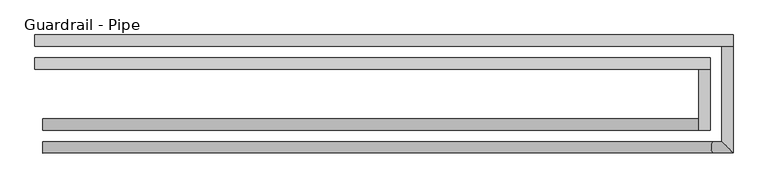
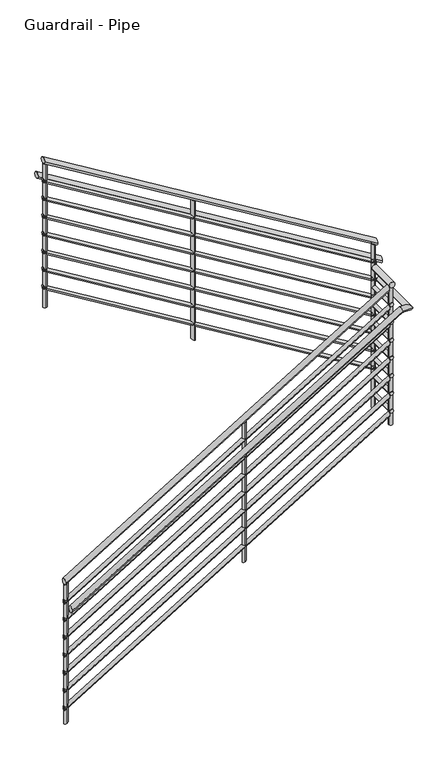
"""IFC4 building model written with IfcOpenShell, lengths in millimetres: railing geometry, Guardrail - Pipe."""

from ifc_helpers import new_model, si_unit, point, frame, frame_2d, origin, place, context, project, spatial, circle_curve, ellipse_curve, trimmed, segment, composite_curve, outline, extrude, source, transform, mapped, element, save
from ifc_brep_helpers import plane_surface, cylinder_surface, advanced_brep


def guardrail_pipe_1aecc964(model_context):
    return source(origin(), model_context, "Body", "SolidModel", [
        advanced_brep(
        [(-2909.3516552, 9300.527236, 1216.4326775), (-2909.3516552, 9338.627236, 1216.4326775), (-718.6016552, 9300.527236, 2549.387223), (-718.6016552, 9338.627236, 2549.387223)],
        [
            (0, 1, ellipse_curve(frame((-2909.3516552, 9319.577236, 1216.4326775), z_axis=(-1.0, 0.0, 0.0), x_axis=(0.0, 0.0, -1.0)), 22.2991406, 19.05)),
            (1, 0, ellipse_curve(frame((-2909.3516552, 9319.577236, 1216.4326775), z_axis=(-1.0, 0.0, 0.0), x_axis=(0.0, 0.0, -1.0)), 22.2991406, 19.05)),
            (2, 3, ellipse_curve(frame((-718.6016552, 9319.577236, 2549.387223), z_axis=(1.0, 0.0, 0.0), x_axis=(0.0, 0.0, -1.0)), 22.2991406, 19.05)),
            (3, 2, ellipse_curve(frame((-718.6016552, 9319.577236, 2549.387223), z_axis=(1.0, 0.0, 0.0), x_axis=(0.0, 0.0, -1.0)), 22.2991406, 19.05)),
            (0, 2),
            (3, 1),
        ],
        [
            plane_surface(frame((-2909.3516552, 9319.577236, 1238.7318182), z_axis=(-1.0, 0.0, 0.0), x_axis=(0.0, 1.0, 0.0))),
            plane_surface(frame((-718.6016552, 9319.577236, 2571.6863636), z_axis=(1.0, 0.0, 0.0), x_axis=(0.0, 1.0, 0.0))),
            cylinder_surface(frame((-2899.4496225, 9319.577236, 1222.4575363), z_axis=(-0.8542930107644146, 0.0, -0.519791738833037), x_axis=(0.0, 1.0, 0.0)), 19.05),
        ],
        [
            (0, [[1, 2]]),
            (1, [[3, 4]]),
            (2, [[-1, 5, -4, 6]]),
            (2, [[-2, -6, -3, -5]]),
        ],
    ),
        advanced_brep(
        [(-680.5016552, 9300.527236, 2577.75), (-718.6016552, 9300.527236, 2577.75), (-680.5016552, 9503.727236, 2577.75), (-718.6016552, 9503.727236, 2577.75)],
        [
            (0, 1, circle_curve(frame((-699.5516552, 9300.527236, 2577.75), z_axis=(0.0, -1.0, 0.0), x_axis=(-1.0, 0.0, 0.0)), 19.05)),
            (1, 0, circle_curve(frame((-699.5516552, 9300.527236, 2577.75), z_axis=(0.0, -1.0, 0.0), x_axis=(-1.0, 0.0, 0.0)), 19.05)),
            (2, 3, circle_curve(frame((-699.5516552, 9503.727236, 2577.75), z_axis=(0.0, 1.0, 0.0), x_axis=(-1.0, 0.0, 0.0)), 19.05)),
            (3, 2, circle_curve(frame((-699.5516552, 9503.727236, 2577.75), z_axis=(0.0, 1.0, 0.0), x_axis=(-1.0, 0.0, 0.0)), 19.05)),
            (0, 2),
            (3, 1),
        ],
        [
            plane_surface(frame((-699.5516552, 9300.527236, 2596.8), z_axis=(0.0, -1.0, 0.0), x_axis=(0.0, 0.0, 1.0))),
            plane_surface(frame((-699.5516552, 9503.727236, 2596.8), z_axis=(0.0, 1.0, 0.0), x_axis=(0.0, 0.0, 1.0))),
            cylinder_surface(frame((-699.5516552, 9300.527236, 2577.75), z_axis=(0.0, -1.0, 0.0), x_axis=(-1.0, 0.0, 0.0)), 19.05),
        ],
        [
            (0, [[1, 2]]),
            (1, [[3, 4]]),
            (2, [[-1, 5, -4, 6]]),
            (2, [[-2, -6, -3, -5]]),
        ],
    ),
        advanced_brep(
        [(-680.5016552, 9541.827236, 2746.4326775), (-680.5016552, 9503.727236, 2746.4326775), (-2934.7516552, 9541.827236, 4118.0235866), (-2934.7516552, 9503.727236, 4118.0235866)],
        [
            (0, 1, ellipse_curve(frame((-680.5016552, 9522.777236, 2746.4326775), z_axis=(1.0, 0.0, 0.0), x_axis=(0.0, 0.0, -1.0)), 22.2991406, 19.05)),
            (1, 0, ellipse_curve(frame((-680.5016552, 9522.777236, 2746.4326775), z_axis=(1.0, 0.0, 0.0), x_axis=(0.0, 0.0, -1.0)), 22.2991406, 19.05)),
            (2, 3, ellipse_curve(frame((-2934.7516552, 9522.777236, 4118.0235866), z_axis=(-1.0, 0.0, 0.0), x_axis=(0.0, 0.0, -1.0)), 22.2991406, 19.05)),
            (3, 2, ellipse_curve(frame((-2934.7516552, 9522.777236, 4118.0235866), z_axis=(-1.0, 0.0, 0.0), x_axis=(0.0, 0.0, -1.0)), 22.2991406, 19.05)),
            (0, 2),
            (3, 1),
        ],
        [
            plane_surface(frame((-680.5016552, 9522.777236, 2768.7318182), z_axis=(1.0, 0.0, 0.0), x_axis=(0.0, -1.0, 0.0))),
            plane_surface(frame((-2934.7516552, 9522.777236, 4140.3227273), z_axis=(-1.0, 0.0, 0.0), x_axis=(0.0, -1.0, 0.0))),
            cylinder_surface(frame((-690.4036878, 9522.777236, 2752.4575363), z_axis=(0.8542930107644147, 0.0, -0.5197917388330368), x_axis=(0.0, -1.0, 0.0)), 19.05),
        ],
        [
            (0, [[1, 2]]),
            (1, [[3, 4]]),
            (2, [[-1, 5, -4, 6]]),
            (2, [[-2, -6, -3, -5]]),
        ],
    ),
        advanced_brep(
        [(-2909.3516552, 9306.877236, 1071.4657244), (-2909.3516552, 9332.277236, 1071.4657244), (-712.2516552, 9306.877236, 2408.2839062), (-712.2516552, 9332.277236, 2408.2839062)],
        [
            (0, 1, ellipse_curve(frame((-2909.3516552, 9319.577236, 1071.4657244), z_axis=(-1.0, 0.0, 0.0), x_axis=(0.0, 0.0, -1.0)), 14.8660938, 12.7)),
            (1, 0, ellipse_curve(frame((-2909.3516552, 9319.577236, 1071.4657244), z_axis=(-1.0, 0.0, 0.0), x_axis=(0.0, 0.0, -1.0)), 14.8660938, 12.7)),
            (2, 3, ellipse_curve(frame((-712.2516552, 9319.577236, 2408.2839062), z_axis=(1.0, 0.0, 0.0), x_axis=(0.0, 0.0, -1.0)), 14.8660938, 12.7)),
            (3, 2, ellipse_curve(frame((-712.2516552, 9319.577236, 2408.2839062), z_axis=(1.0, 0.0, 0.0), x_axis=(0.0, 0.0, -1.0)), 14.8660938, 12.7)),
            (0, 2),
            (3, 1),
        ],
        [
            plane_surface(frame((-2909.3516552, 9319.577236, 1086.3318182), z_axis=(-1.0, 0.0, 0.0), x_axis=(0.0, 1.0, 0.0))),
            plane_surface(frame((-712.2516552, 9319.577236, 2423.15), z_axis=(1.0, 0.0, 0.0), x_axis=(0.0, 1.0, 0.0))),
            cylinder_surface(frame((-2902.7503001, 9319.577236, 1075.4822969), z_axis=(-0.8542930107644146, 0.0, -0.5197917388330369), x_axis=(0.0, 1.0, 0.0)), 12.7),
        ],
        [
            (0, [[1, 2]]),
            (1, [[3, 4]]),
            (2, [[-1, 5, -4, 6]]),
            (2, [[-2, -6, -3, -5]]),
        ],
    ),
        advanced_brep(
        [(-686.8516552, 9306.877236, 2431.7), (-712.2516552, 9306.877236, 2431.7), (-686.8516552, 9510.077236, 2431.7), (-712.2516552, 9510.077236, 2431.7)],
        [
            (0, 1, circle_curve(frame((-699.5516552, 9306.877236, 2431.7), z_axis=(0.0, -1.0, 0.0), x_axis=(-1.0, 0.0, 0.0)), 12.7)),
            (1, 0, circle_curve(frame((-699.5516552, 9306.877236, 2431.7), z_axis=(0.0, -1.0, 0.0), x_axis=(-1.0, 0.0, 0.0)), 12.7)),
            (2, 3, circle_curve(frame((-699.5516552, 9510.077236, 2431.7), z_axis=(0.0, 1.0, 0.0), x_axis=(-1.0, 0.0, 0.0)), 12.7)),
            (3, 2, circle_curve(frame((-699.5516552, 9510.077236, 2431.7), z_axis=(0.0, 1.0, 0.0), x_axis=(-1.0, 0.0, 0.0)), 12.7)),
            (0, 2),
            (3, 1),
        ],
        [
            plane_surface(frame((-699.5516552, 9306.877236, 2444.4), z_axis=(0.0, -1.0, 0.0), x_axis=(0.0, 0.0, 1.0))),
            plane_surface(frame((-699.5516552, 9510.077236, 2444.4), z_axis=(0.0, 1.0, 0.0), x_axis=(0.0, 0.0, 1.0))),
            cylinder_surface(frame((-699.5516552, 9306.877236, 2431.7), z_axis=(0.0, -1.0, 0.0), x_axis=(-1.0, 0.0, 0.0)), 12.7),
        ],
        [
            (0, [[1, 2]]),
            (1, [[3, 4]]),
            (2, [[-1, 5, -4, 6]]),
            (2, [[-2, -6, -3, -5]]),
        ],
    ),
        advanced_brep(
        [(-686.8516552, 9535.477236, 2605.3293608), (-686.8516552, 9510.077236, 2605.3293608), (-2934.7516552, 9535.477236, 3973.0566335), (-2934.7516552, 9510.077236, 3973.0566335)],
        [
            (0, 1, ellipse_curve(frame((-686.8516552, 9522.777236, 2605.3293608), z_axis=(1.0, 0.0, 0.0), x_axis=(0.0, 0.0, -1.0)), 14.8660938, 12.7)),
            (1, 0, ellipse_curve(frame((-686.8516552, 9522.777236, 2605.3293608), z_axis=(1.0, 0.0, 0.0), x_axis=(0.0, 0.0, -1.0)), 14.8660938, 12.7)),
            (2, 3, ellipse_curve(frame((-2934.7516552, 9522.777236, 3973.0566335), z_axis=(-1.0, 0.0, 0.0), x_axis=(0.0, 0.0, -1.0)), 14.8660938, 12.7)),
            (3, 2, ellipse_curve(frame((-2934.7516552, 9522.777236, 3973.0566335), z_axis=(-1.0, 0.0, 0.0), x_axis=(0.0, 0.0, -1.0)), 14.8660938, 12.7)),
            (0, 2),
            (3, 1),
        ],
        [
            plane_surface(frame((-686.8516552, 9522.777236, 2620.1954545), z_axis=(1.0, 0.0, 0.0), x_axis=(0.0, -1.0, 0.0))),
            plane_surface(frame((-2934.7516552, 9522.777236, 3987.9227273), z_axis=(-1.0, 0.0, 0.0), x_axis=(0.0, -1.0, 0.0))),
            cylinder_surface(frame((-693.4530103, 9522.777236, 2609.3459333), z_axis=(0.8542930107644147, 0.0, -0.5197917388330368), x_axis=(0.0, -1.0, 0.0)), 12.7),
        ],
        [
            (0, [[1, 2]]),
            (1, [[3, 4]]),
            (2, [[-1, 5, -4, 6]]),
            (2, [[-2, -6, -3, -5]]),
        ],
    ),
        advanced_brep(
        [(-2909.3516552, 9224.327236, 1064.0326775), (-2909.3516552, 9262.427236, 1064.0326775), (-671.986597, 9224.327236, 2425.35), (-671.986597, 9262.427236, 2425.35), (-604.3016552, 9224.327236, 2425.35), (-642.4016552, 9262.427236, 2425.35), (-604.3016552, 9579.927236, 2425.35), (-642.4016552, 9579.927236, 2425.35)],
        [
            (0, 1, ellipse_curve(frame((-2909.3516552, 9243.377236, 1064.0326775), z_axis=(-1.0, 0.0, 0.0), x_axis=(0.0, 0.0, -1.0)), 22.2991406, 19.05)),
            (1, 0, ellipse_curve(frame((-2909.3516552, 9243.377236, 1064.0326775), z_axis=(-1.0, 0.0, 0.0), x_axis=(0.0, 0.0, -1.0)), 22.2991406, 19.05)),
            (0, 2),
            (2, 3, ellipse_curve(frame((-671.986597, 9243.377236, 2425.35), z_axis=(-0.9628844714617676, 0.0, -0.2699138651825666), x_axis=(0.26991386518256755, 0.0, -0.9628844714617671)), 19.7843049, 19.05)),
            (3, 1),
            (3, 2, ellipse_curve(frame((-671.986597, 9243.377236, 2425.35), z_axis=(-0.9628844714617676, 0.0, -0.2699138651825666), x_axis=(0.26991386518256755, 0.0, -0.9628844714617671)), 19.7843049, 19.05)),
            (2, 4),
            (4, 5, ellipse_curve(frame((-623.3516552, 9243.377236, 2425.35), z_axis=(-0.7071067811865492, -0.7071067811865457, 0.0), x_axis=(-0.7071067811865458, 0.7071067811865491, 0.0)), 26.9407684, 19.05)),
            (5, 3),
            (5, 4, ellipse_curve(frame((-623.3516552, 9243.377236, 2425.35), z_axis=(-0.7071067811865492, -0.7071067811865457, 0.0), x_axis=(-0.7071067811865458, 0.7071067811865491, 0.0)), 26.9407684, 19.05)),
            (6, 7, circle_curve(frame((-623.3516552, 9579.927236, 2425.35), z_axis=(0.0, 1.0, 0.0), x_axis=(-1.0, 0.0, 0.0)), 19.05)),
            (7, 6, circle_curve(frame((-623.3516552, 9579.927236, 2425.35), z_axis=(0.0, 1.0, 0.0), x_axis=(-1.0, 0.0, 0.0)), 19.05)),
            (4, 6),
            (7, 5),
        ],
        [
            plane_surface(frame((-2909.3516552, 9243.377236, 1086.3318182), z_axis=(-1.0, 0.0, 0.0), x_axis=(0.0, 1.0, 0.0))),
            cylinder_surface(frame((-2899.4496225, 9243.377236, 1070.0575363), z_axis=(-0.8542930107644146, 0.0, -0.5197917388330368), x_axis=(0.0, 1.0, 0.0)), 19.05),
            cylinder_surface(frame((-677.3266552, 9243.377236, 2425.35), z_axis=(-1.0, 0.0, 0.0), x_axis=(0.0, 1.0, 0.0)), 19.05),
            plane_surface(frame((-623.3516552, 9579.927236, 2444.4), z_axis=(0.0, 1.0, 0.0), x_axis=(0.0, 0.0, 1.0))),
            cylinder_surface(frame((-623.3516552, 9243.377236, 2425.35), z_axis=(0.0, -1.0, 0.0), x_axis=(-1.0, 0.0, 0.0)), 19.05),
        ],
        [
            (0, [[1, 2]]),
            (1, [[-1, 3, 4, 5]]),
            (1, [[-2, -5, 6, -3]]),
            (2, [[-4, 7, 8, 9]]),
            (2, [[-6, -9, 10, -7]]),
            (3, [[11, 12]]),
            (4, [[-8, 13, -12, 14]]),
            (4, [[-10, -14, -11, -13]]),
        ],
    ),
        advanced_brep(
        [(-604.3016552, 9618.027236, 2547.6690412), (-604.3016552, 9579.927236, 2547.6690412), (-2934.7516552, 9618.027236, 3965.6235866), (-2934.7516552, 9579.927236, 3965.6235866)],
        [
            (0, 1, ellipse_curve(frame((-604.3016552, 9598.977236, 2547.6690412), z_axis=(1.0, 0.0, 0.0), x_axis=(0.0, 0.0, -1.0)), 22.2991406, 19.05)),
            (1, 0, ellipse_curve(frame((-604.3016552, 9598.977236, 2547.6690412), z_axis=(1.0, 0.0, 0.0), x_axis=(0.0, 0.0, -1.0)), 22.2991406, 19.05)),
            (2, 3, ellipse_curve(frame((-2934.7516552, 9598.977236, 3965.6235866), z_axis=(-1.0, 0.0, 0.0), x_axis=(0.0, 0.0, -1.0)), 22.2991406, 19.05)),
            (3, 2, ellipse_curve(frame((-2934.7516552, 9598.977236, 3965.6235866), z_axis=(-1.0, 0.0, 0.0), x_axis=(0.0, 0.0, -1.0)), 22.2991406, 19.05)),
            (0, 2),
            (3, 1),
        ],
        [
            plane_surface(frame((-604.3016552, 9598.977236, 2569.9681818), z_axis=(1.0, 0.0, 0.0), x_axis=(0.0, -1.0, 0.0))),
            plane_surface(frame((-2934.7516552, 9598.977236, 3987.9227273), z_axis=(-1.0, 0.0, 0.0), x_axis=(0.0, -1.0, 0.0))),
            cylinder_surface(frame((-614.2036878, 9598.977236, 2553.6939), z_axis=(0.8542930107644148, 0.0, -0.5197917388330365), x_axis=(0.0, -1.0, 0.0)), 19.05),
        ],
        [
            (0, [[1, 2]]),
            (1, [[3, 4]]),
            (2, [[-1, 5, -4, 6]]),
            (2, [[-2, -6, -3, -5]]),
        ],
    ),
        advanced_brep(
        [(-2909.3516552, 9306.877236, 944.4657244), (-2909.3516552, 9332.277236, 944.4657244), (-712.2516552, 9306.877236, 2281.2839062), (-712.2516552, 9332.277236, 2281.2839062)],
        [
            (0, 1, ellipse_curve(frame((-2909.3516552, 9319.577236, 944.4657244), z_axis=(-1.0, 0.0, 0.0), x_axis=(0.0, 0.0, -1.0)), 14.8660938, 12.7)),
            (1, 0, ellipse_curve(frame((-2909.3516552, 9319.577236, 944.4657244), z_axis=(-1.0, 0.0, 0.0), x_axis=(0.0, 0.0, -1.0)), 14.8660938, 12.7)),
            (2, 3, ellipse_curve(frame((-712.2516552, 9319.577236, 2281.2839062), z_axis=(1.0, 0.0, 0.0), x_axis=(0.0, 0.0, -1.0)), 14.8660938, 12.7)),
            (3, 2, ellipse_curve(frame((-712.2516552, 9319.577236, 2281.2839062), z_axis=(1.0, 0.0, 0.0), x_axis=(0.0, 0.0, -1.0)), 14.8660938, 12.7)),
            (0, 2),
            (3, 1),
        ],
        [
            plane_surface(frame((-2909.3516552, 9319.577236, 959.3318182), z_axis=(-1.0, 0.0, 0.0), x_axis=(0.0, 1.0, 0.0))),
            plane_surface(frame((-712.2516552, 9319.577236, 2296.15), z_axis=(1.0, 0.0, 0.0), x_axis=(0.0, 1.0, 0.0))),
            cylinder_surface(frame((-2902.7503001, 9319.577236, 948.4822969), z_axis=(-0.8542930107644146, 0.0, -0.5197917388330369), x_axis=(0.0, 1.0, 0.0)), 12.7),
        ],
        [
            (0, [[1, 2]]),
            (1, [[3, 4]]),
            (2, [[-1, 5, -4, 6]]),
            (2, [[-2, -6, -3, -5]]),
        ],
    ),
        advanced_brep(
        [(-686.8516552, 9306.877236, 2304.7), (-712.2516552, 9306.877236, 2304.7), (-686.8516552, 9510.077236, 2304.7), (-712.2516552, 9510.077236, 2304.7)],
        [
            (0, 1, circle_curve(frame((-699.5516552, 9306.877236, 2304.7), z_axis=(0.0, -1.0, 0.0), x_axis=(-1.0, 0.0, 0.0)), 12.7)),
            (1, 0, circle_curve(frame((-699.5516552, 9306.877236, 2304.7), z_axis=(0.0, -1.0, 0.0), x_axis=(-1.0, 0.0, 0.0)), 12.7)),
            (2, 3, circle_curve(frame((-699.5516552, 9510.077236, 2304.7), z_axis=(0.0, 1.0, 0.0), x_axis=(-1.0, 0.0, 0.0)), 12.7)),
            (3, 2, circle_curve(frame((-699.5516552, 9510.077236, 2304.7), z_axis=(0.0, 1.0, 0.0), x_axis=(-1.0, 0.0, 0.0)), 12.7)),
            (0, 2),
            (3, 1),
        ],
        [
            plane_surface(frame((-699.5516552, 9306.877236, 2317.4), z_axis=(0.0, -1.0, 0.0), x_axis=(0.0, 0.0, 1.0))),
            plane_surface(frame((-699.5516552, 9510.077236, 2317.4), z_axis=(0.0, 1.0, 0.0), x_axis=(0.0, 0.0, 1.0))),
            cylinder_surface(frame((-699.5516552, 9306.877236, 2304.7), z_axis=(0.0, -1.0, 0.0), x_axis=(-1.0, 0.0, 0.0)), 12.7),
        ],
        [
            (0, [[1, 2]]),
            (1, [[3, 4]]),
            (2, [[-1, 5, -4, 6]]),
            (2, [[-2, -6, -3, -5]]),
        ],
    ),
        advanced_brep(
        [(-686.8516552, 9535.477236, 2478.3293608), (-686.8516552, 9510.077236, 2478.3293608), (-2934.7516552, 9535.477236, 3846.0566335), (-2934.7516552, 9510.077236, 3846.0566335)],
        [
            (0, 1, ellipse_curve(frame((-686.8516552, 9522.777236, 2478.3293608), z_axis=(1.0, 0.0, 0.0), x_axis=(0.0, 0.0, -1.0)), 14.8660938, 12.7)),
            (1, 0, ellipse_curve(frame((-686.8516552, 9522.777236, 2478.3293608), z_axis=(1.0, 0.0, 0.0), x_axis=(0.0, 0.0, -1.0)), 14.8660938, 12.7)),
            (2, 3, ellipse_curve(frame((-2934.7516552, 9522.777236, 3846.0566335), z_axis=(-1.0, 0.0, 0.0), x_axis=(0.0, 0.0, -1.0)), 14.8660938, 12.7)),
            (3, 2, ellipse_curve(frame((-2934.7516552, 9522.777236, 3846.0566335), z_axis=(-1.0, 0.0, 0.0), x_axis=(0.0, 0.0, -1.0)), 14.8660938, 12.7)),
            (0, 2),
            (3, 1),
        ],
        [
            plane_surface(frame((-686.8516552, 9522.777236, 2493.1954545), z_axis=(1.0, 0.0, 0.0), x_axis=(0.0, -1.0, 0.0))),
            plane_surface(frame((-2934.7516552, 9522.777236, 3860.9227273), z_axis=(-1.0, 0.0, 0.0), x_axis=(0.0, -1.0, 0.0))),
            cylinder_surface(frame((-693.4530103, 9522.777236, 2482.3459333), z_axis=(0.8542930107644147, 0.0, -0.5197917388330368), x_axis=(0.0, -1.0, 0.0)), 12.7),
        ],
        [
            (0, [[1, 2]]),
            (1, [[3, 4]]),
            (2, [[-1, 5, -4, 6]]),
            (2, [[-2, -6, -3, -5]]),
        ],
    ),
        advanced_brep(
        [(-2909.3516552, 9306.877236, 817.4657244), (-2909.3516552, 9332.277236, 817.4657244), (-712.2516552, 9306.877236, 2154.2839062), (-712.2516552, 9332.277236, 2154.2839062)],
        [
            (0, 1, ellipse_curve(frame((-2909.3516552, 9319.577236, 817.4657244), z_axis=(-1.0, 0.0, 0.0), x_axis=(0.0, 0.0, -1.0)), 14.8660938, 12.7)),
            (1, 0, ellipse_curve(frame((-2909.3516552, 9319.577236, 817.4657244), z_axis=(-1.0, 0.0, 0.0), x_axis=(0.0, 0.0, -1.0)), 14.8660938, 12.7)),
            (2, 3, ellipse_curve(frame((-712.2516552, 9319.577236, 2154.2839062), z_axis=(1.0, 0.0, 0.0), x_axis=(0.0, 0.0, -1.0)), 14.8660938, 12.7)),
            (3, 2, ellipse_curve(frame((-712.2516552, 9319.577236, 2154.2839062), z_axis=(1.0, 0.0, 0.0), x_axis=(0.0, 0.0, -1.0)), 14.8660938, 12.7)),
            (0, 2),
            (3, 1),
        ],
        [
            plane_surface(frame((-2909.3516552, 9319.577236, 832.3318182), z_axis=(-1.0, 0.0, 0.0), x_axis=(0.0, 1.0, 0.0))),
            plane_surface(frame((-712.2516552, 9319.577236, 2169.15), z_axis=(1.0, 0.0, 0.0), x_axis=(0.0, 1.0, 0.0))),
            cylinder_surface(frame((-2902.7503001, 9319.577236, 821.4822969), z_axis=(-0.8542930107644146, 0.0, -0.519791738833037), x_axis=(0.0, 1.0, 0.0)), 12.7),
        ],
        [
            (0, [[1, 2]]),
            (1, [[3, 4]]),
            (2, [[-1, 5, -4, 6]]),
            (2, [[-2, -6, -3, -5]]),
        ],
    ),
        advanced_brep(
        [(-686.8516552, 9306.877236, 2177.7), (-712.2516552, 9306.877236, 2177.7), (-686.8516552, 9510.077236, 2177.7), (-712.2516552, 9510.077236, 2177.7)],
        [
            (0, 1, circle_curve(frame((-699.5516552, 9306.877236, 2177.7), z_axis=(0.0, -1.0, 0.0), x_axis=(-1.0, 0.0, 0.0)), 12.7)),
            (1, 0, circle_curve(frame((-699.5516552, 9306.877236, 2177.7), z_axis=(0.0, -1.0, 0.0), x_axis=(-1.0, 0.0, 0.0)), 12.7)),
            (2, 3, circle_curve(frame((-699.5516552, 9510.077236, 2177.7), z_axis=(0.0, 1.0, 0.0), x_axis=(-1.0, 0.0, 0.0)), 12.7)),
            (3, 2, circle_curve(frame((-699.5516552, 9510.077236, 2177.7), z_axis=(0.0, 1.0, 0.0), x_axis=(-1.0, 0.0, 0.0)), 12.7)),
            (0, 2),
            (3, 1),
        ],
        [
            plane_surface(frame((-699.5516552, 9306.877236, 2190.4), z_axis=(0.0, -1.0, 0.0), x_axis=(0.0, 0.0, 1.0))),
            plane_surface(frame((-699.5516552, 9510.077236, 2190.4), z_axis=(0.0, 1.0, 0.0), x_axis=(0.0, 0.0, 1.0))),
            cylinder_surface(frame((-699.5516552, 9306.877236, 2177.7), z_axis=(0.0, -1.0, 0.0), x_axis=(-1.0, 0.0, 0.0)), 12.7),
        ],
        [
            (0, [[1, 2]]),
            (1, [[3, 4]]),
            (2, [[-1, 5, -4, 6]]),
            (2, [[-2, -6, -3, -5]]),
        ],
    ),
        advanced_brep(
        [(-686.8516552, 9535.477236, 2351.3293608), (-686.8516552, 9510.077236, 2351.3293608), (-2934.7516552, 9535.477236, 3719.0566335), (-2934.7516552, 9510.077236, 3719.0566335)],
        [
            (0, 1, ellipse_curve(frame((-686.8516552, 9522.777236, 2351.3293608), z_axis=(1.0, 0.0, 0.0), x_axis=(0.0, 0.0, -1.0)), 14.8660938, 12.7)),
            (1, 0, ellipse_curve(frame((-686.8516552, 9522.777236, 2351.3293608), z_axis=(1.0, 0.0, 0.0), x_axis=(0.0, 0.0, -1.0)), 14.8660938, 12.7)),
            (2, 3, ellipse_curve(frame((-2934.7516552, 9522.777236, 3719.0566335), z_axis=(-1.0, 0.0, 0.0), x_axis=(0.0, 0.0, -1.0)), 14.8660938, 12.7)),
            (3, 2, ellipse_curve(frame((-2934.7516552, 9522.777236, 3719.0566335), z_axis=(-1.0, 0.0, 0.0), x_axis=(0.0, 0.0, -1.0)), 14.8660938, 12.7)),
            (0, 2),
            (3, 1),
        ],
        [
            plane_surface(frame((-686.8516552, 9522.777236, 2366.1954545), z_axis=(1.0, 0.0, 0.0), x_axis=(0.0, -1.0, 0.0))),
            plane_surface(frame((-2934.7516552, 9522.777236, 3733.9227273), z_axis=(-1.0, 0.0, 0.0), x_axis=(0.0, -1.0, 0.0))),
            cylinder_surface(frame((-693.4530103, 9522.777236, 2355.3459333), z_axis=(0.8542930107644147, 0.0, -0.5197917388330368), x_axis=(0.0, -1.0, 0.0)), 12.7),
        ],
        [
            (0, [[1, 2]]),
            (1, [[3, 4]]),
            (2, [[-1, 5, -4, 6]]),
            (2, [[-2, -6, -3, -5]]),
        ],
    ),
        advanced_brep(
        [(-2909.3516552, 9306.877236, 690.4657244), (-2909.3516552, 9332.277236, 690.4657244), (-712.2516552, 9306.877236, 2027.2839062), (-712.2516552, 9332.277236, 2027.2839062)],
        [
            (0, 1, ellipse_curve(frame((-2909.3516552, 9319.577236, 690.4657244), z_axis=(-1.0, 0.0, 0.0), x_axis=(0.0, 0.0, -1.0)), 14.8660938, 12.7)),
            (1, 0, ellipse_curve(frame((-2909.3516552, 9319.577236, 690.4657244), z_axis=(-1.0, 0.0, 0.0), x_axis=(0.0, 0.0, -1.0)), 14.8660938, 12.7)),
            (2, 3, ellipse_curve(frame((-712.2516552, 9319.577236, 2027.2839062), z_axis=(1.0, 0.0, 0.0), x_axis=(0.0, 0.0, -1.0)), 14.8660938, 12.7)),
            (3, 2, ellipse_curve(frame((-712.2516552, 9319.577236, 2027.2839062), z_axis=(1.0, 0.0, 0.0), x_axis=(0.0, 0.0, -1.0)), 14.8660938, 12.7)),
            (0, 2),
            (3, 1),
        ],
        [
            plane_surface(frame((-2909.3516552, 9319.577236, 705.3318182), z_axis=(-1.0, 0.0, 0.0), x_axis=(0.0, 1.0, 0.0))),
            plane_surface(frame((-712.2516552, 9319.577236, 2042.15), z_axis=(1.0, 0.0, 0.0), x_axis=(0.0, 1.0, 0.0))),
            cylinder_surface(frame((-2902.7503001, 9319.577236, 694.4822969), z_axis=(-0.8542930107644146, 0.0, -0.5197917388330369), x_axis=(0.0, 1.0, 0.0)), 12.7),
        ],
        [
            (0, [[1, 2]]),
            (1, [[3, 4]]),
            (2, [[-1, 5, -4, 6]]),
            (2, [[-2, -6, -3, -5]]),
        ],
    ),
        advanced_brep(
        [(-686.8516552, 9306.877236, 2050.7), (-712.2516552, 9306.877236, 2050.7), (-686.8516552, 9510.077236, 2050.7), (-712.2516552, 9510.077236, 2050.7)],
        [
            (0, 1, circle_curve(frame((-699.5516552, 9306.877236, 2050.7), z_axis=(0.0, -1.0, 0.0), x_axis=(-1.0, 0.0, 0.0)), 12.7)),
            (1, 0, circle_curve(frame((-699.5516552, 9306.877236, 2050.7), z_axis=(0.0, -1.0, 0.0), x_axis=(-1.0, 0.0, 0.0)), 12.7)),
            (2, 3, circle_curve(frame((-699.5516552, 9510.077236, 2050.7), z_axis=(0.0, 1.0, 0.0), x_axis=(-1.0, 0.0, 0.0)), 12.7)),
            (3, 2, circle_curve(frame((-699.5516552, 9510.077236, 2050.7), z_axis=(0.0, 1.0, 0.0), x_axis=(-1.0, 0.0, 0.0)), 12.7)),
            (0, 2),
            (3, 1),
        ],
        [
            plane_surface(frame((-699.5516552, 9306.877236, 2063.4), z_axis=(0.0, -1.0, 0.0), x_axis=(0.0, 0.0, 1.0))),
            plane_surface(frame((-699.5516552, 9510.077236, 2063.4), z_axis=(0.0, 1.0, 0.0), x_axis=(0.0, 0.0, 1.0))),
            cylinder_surface(frame((-699.5516552, 9306.877236, 2050.7), z_axis=(0.0, -1.0, 0.0), x_axis=(-1.0, 0.0, 0.0)), 12.7),
        ],
        [
            (0, [[1, 2]]),
            (1, [[3, 4]]),
            (2, [[-1, 5, -4, 6]]),
            (2, [[-2, -6, -3, -5]]),
        ],
    ),
        advanced_brep(
        [(-686.8516552, 9535.477236, 2224.3293608), (-686.8516552, 9510.077236, 2224.3293608), (-2934.7516552, 9535.477236, 3592.0566335), (-2934.7516552, 9510.077236, 3592.0566335)],
        [
            (0, 1, ellipse_curve(frame((-686.8516552, 9522.777236, 2224.3293608), z_axis=(1.0, 0.0, 0.0), x_axis=(0.0, 0.0, -1.0)), 14.8660938, 12.7)),
            (1, 0, ellipse_curve(frame((-686.8516552, 9522.777236, 2224.3293608), z_axis=(1.0, 0.0, 0.0), x_axis=(0.0, 0.0, -1.0)), 14.8660938, 12.7)),
            (2, 3, ellipse_curve(frame((-2934.7516552, 9522.777236, 3592.0566335), z_axis=(-1.0, 0.0, 0.0), x_axis=(0.0, 0.0, -1.0)), 14.8660938, 12.7)),
            (3, 2, ellipse_curve(frame((-2934.7516552, 9522.777236, 3592.0566335), z_axis=(-1.0, 0.0, 0.0), x_axis=(0.0, 0.0, -1.0)), 14.8660938, 12.7)),
            (0, 2),
            (3, 1),
        ],
        [
            plane_surface(frame((-686.8516552, 9522.777236, 2239.1954545), z_axis=(1.0, 0.0, 0.0), x_axis=(0.0, -1.0, 0.0))),
            plane_surface(frame((-2934.7516552, 9522.777236, 3606.9227273), z_axis=(-1.0, 0.0, 0.0), x_axis=(0.0, -1.0, 0.0))),
            cylinder_surface(frame((-693.4530103, 9522.777236, 2228.3459333), z_axis=(0.8542930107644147, 0.0, -0.5197917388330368), x_axis=(0.0, -1.0, 0.0)), 12.7),
        ],
        [
            (0, [[1, 2]]),
            (1, [[3, 4]]),
            (2, [[-1, 5, -4, 6]]),
            (2, [[-2, -6, -3, -5]]),
        ],
    ),
        advanced_brep(
        [(-2909.3516552, 9306.877236, 563.4657244), (-2909.3516552, 9332.277236, 563.4657244), (-712.2516552, 9306.877236, 1900.2839062), (-712.2516552, 9332.277236, 1900.2839062)],
        [
            (0, 1, ellipse_curve(frame((-2909.3516552, 9319.577236, 563.4657244), z_axis=(-1.0, 0.0, 0.0), x_axis=(0.0, 0.0, -1.0)), 14.8660938, 12.7)),
            (1, 0, ellipse_curve(frame((-2909.3516552, 9319.577236, 563.4657244), z_axis=(-1.0, 0.0, 0.0), x_axis=(0.0, 0.0, -1.0)), 14.8660938, 12.7)),
            (2, 3, ellipse_curve(frame((-712.2516552, 9319.577236, 1900.2839062), z_axis=(1.0, 0.0, 0.0), x_axis=(0.0, 0.0, -1.0)), 14.8660938, 12.7)),
            (3, 2, ellipse_curve(frame((-712.2516552, 9319.577236, 1900.2839062), z_axis=(1.0, 0.0, 0.0), x_axis=(0.0, 0.0, -1.0)), 14.8660938, 12.7)),
            (0, 2),
            (3, 1),
        ],
        [
            plane_surface(frame((-2909.3516552, 9319.577236, 578.3318182), z_axis=(-1.0, 0.0, 0.0), x_axis=(0.0, 1.0, 0.0))),
            plane_surface(frame((-712.2516552, 9319.577236, 1915.15), z_axis=(1.0, 0.0, 0.0), x_axis=(0.0, 1.0, 0.0))),
            cylinder_surface(frame((-2902.7503001, 9319.577236, 567.4822969), z_axis=(-0.8542930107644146, 0.0, -0.5197917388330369), x_axis=(0.0, 1.0, 0.0)), 12.7),
        ],
        [
            (0, [[1, 2]]),
            (1, [[3, 4]]),
            (2, [[-1, 5, -4, 6]]),
            (2, [[-2, -6, -3, -5]]),
        ],
    ),
        advanced_brep(
        [(-686.8516552, 9306.877236, 1923.7), (-712.2516552, 9306.877236, 1923.7), (-686.8516552, 9510.077236, 1923.7), (-712.2516552, 9510.077236, 1923.7)],
        [
            (0, 1, circle_curve(frame((-699.5516552, 9306.877236, 1923.7), z_axis=(0.0, -1.0, 0.0), x_axis=(-1.0, 0.0, 0.0)), 12.7)),
            (1, 0, circle_curve(frame((-699.5516552, 9306.877236, 1923.7), z_axis=(0.0, -1.0, 0.0), x_axis=(-1.0, 0.0, 0.0)), 12.7)),
            (2, 3, circle_curve(frame((-699.5516552, 9510.077236, 1923.7), z_axis=(0.0, 1.0, 0.0), x_axis=(-1.0, 0.0, 0.0)), 12.7)),
            (3, 2, circle_curve(frame((-699.5516552, 9510.077236, 1923.7), z_axis=(0.0, 1.0, 0.0), x_axis=(-1.0, 0.0, 0.0)), 12.7)),
            (0, 2),
            (3, 1),
        ],
        [
            plane_surface(frame((-699.5516552, 9306.877236, 1936.4), z_axis=(0.0, -1.0, 0.0), x_axis=(0.0, 0.0, 1.0))),
            plane_surface(frame((-699.5516552, 9510.077236, 1936.4), z_axis=(0.0, 1.0, 0.0), x_axis=(0.0, 0.0, 1.0))),
            cylinder_surface(frame((-699.5516552, 9306.877236, 1923.7), z_axis=(0.0, -1.0, 0.0), x_axis=(-1.0, 0.0, 0.0)), 12.7),
        ],
        [
            (0, [[1, 2]]),
            (1, [[3, 4]]),
            (2, [[-1, 5, -4, 6]]),
            (2, [[-2, -6, -3, -5]]),
        ],
    ),
        advanced_brep(
        [(-686.8516552, 9535.477236, 2097.3293608), (-686.8516552, 9510.077236, 2097.3293608), (-2934.7516552, 9535.477236, 3465.0566335), (-2934.7516552, 9510.077236, 3465.0566335)],
        [
            (0, 1, ellipse_curve(frame((-686.8516552, 9522.777236, 2097.3293608), z_axis=(1.0, 0.0, 0.0), x_axis=(0.0, 0.0, -1.0)), 14.8660938, 12.7)),
            (1, 0, ellipse_curve(frame((-686.8516552, 9522.777236, 2097.3293608), z_axis=(1.0, 0.0, 0.0), x_axis=(0.0, 0.0, -1.0)), 14.8660938, 12.7)),
            (2, 3, ellipse_curve(frame((-2934.7516552, 9522.777236, 3465.0566335), z_axis=(-1.0, 0.0, 0.0), x_axis=(0.0, 0.0, -1.0)), 14.8660938, 12.7)),
            (3, 2, ellipse_curve(frame((-2934.7516552, 9522.777236, 3465.0566335), z_axis=(-1.0, 0.0, 0.0), x_axis=(0.0, 0.0, -1.0)), 14.8660938, 12.7)),
            (0, 2),
            (3, 1),
        ],
        [
            plane_surface(frame((-686.8516552, 9522.777236, 2112.1954545), z_axis=(1.0, 0.0, 0.0), x_axis=(0.0, -1.0, 0.0))),
            plane_surface(frame((-2934.7516552, 9522.777236, 3479.9227273), z_axis=(-1.0, 0.0, 0.0), x_axis=(0.0, -1.0, 0.0))),
            cylinder_surface(frame((-693.4530103, 9522.777236, 2101.3459333), z_axis=(0.8542930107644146, 0.0, -0.5197917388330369), x_axis=(0.0, -1.0, 0.0)), 12.7),
        ],
        [
            (0, [[1, 2]]),
            (1, [[3, 4]]),
            (2, [[-1, 5, -4, 6]]),
            (2, [[-2, -6, -3, -5]]),
        ],
    ),
        advanced_brep(
        [(-2909.3516552, 9306.877236, 436.4657244), (-2909.3516552, 9332.277236, 436.4657244), (-712.2516552, 9306.877236, 1773.2839062), (-712.2516552, 9332.277236, 1773.2839062)],
        [
            (0, 1, ellipse_curve(frame((-2909.3516552, 9319.577236, 436.4657244), z_axis=(-1.0, 0.0, 0.0), x_axis=(0.0, 0.0, -1.0)), 14.8660938, 12.7)),
            (1, 0, ellipse_curve(frame((-2909.3516552, 9319.577236, 436.4657244), z_axis=(-1.0, 0.0, 0.0), x_axis=(0.0, 0.0, -1.0)), 14.8660938, 12.7)),
            (2, 3, ellipse_curve(frame((-712.2516552, 9319.577236, 1773.2839062), z_axis=(1.0, 0.0, 0.0), x_axis=(0.0, 0.0, -1.0)), 14.8660938, 12.7)),
            (3, 2, ellipse_curve(frame((-712.2516552, 9319.577236, 1773.2839062), z_axis=(1.0, 0.0, 0.0), x_axis=(0.0, 0.0, -1.0)), 14.8660938, 12.7)),
            (0, 2),
            (3, 1),
        ],
        [
            plane_surface(frame((-2909.3516552, 9319.577236, 451.3318182), z_axis=(-1.0, 0.0, 0.0), x_axis=(0.0, 1.0, 0.0))),
            plane_surface(frame((-712.2516552, 9319.577236, 1788.15), z_axis=(1.0, 0.0, 0.0), x_axis=(0.0, 1.0, 0.0))),
            cylinder_surface(frame((-2902.7503001, 9319.577236, 440.4822969), z_axis=(-0.8542930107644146, 0.0, -0.519791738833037), x_axis=(0.0, 1.0, 0.0)), 12.7),
        ],
        [
            (0, [[1, 2]]),
            (1, [[3, 4]]),
            (2, [[-1, 5, -4, 6]]),
            (2, [[-2, -6, -3, -5]]),
        ],
    ),
        advanced_brep(
        [(-686.8516552, 9306.877236, 1796.7), (-712.2516552, 9306.877236, 1796.7), (-686.8516552, 9510.077236, 1796.7), (-712.2516552, 9510.077236, 1796.7)],
        [
            (0, 1, circle_curve(frame((-699.5516552, 9306.877236, 1796.7), z_axis=(0.0, -1.0, 0.0), x_axis=(-1.0, 0.0, 0.0)), 12.7)),
            (1, 0, circle_curve(frame((-699.5516552, 9306.877236, 1796.7), z_axis=(0.0, -1.0, 0.0), x_axis=(-1.0, 0.0, 0.0)), 12.7)),
            (2, 3, circle_curve(frame((-699.5516552, 9510.077236, 1796.7), z_axis=(0.0, 1.0, 0.0), x_axis=(-1.0, 0.0, 0.0)), 12.7)),
            (3, 2, circle_curve(frame((-699.5516552, 9510.077236, 1796.7), z_axis=(0.0, 1.0, 0.0), x_axis=(-1.0, 0.0, 0.0)), 12.7)),
            (0, 2),
            (3, 1),
        ],
        [
            plane_surface(frame((-699.5516552, 9306.877236, 1809.4), z_axis=(0.0, -1.0, 0.0), x_axis=(0.0, 0.0, 1.0))),
            plane_surface(frame((-699.5516552, 9510.077236, 1809.4), z_axis=(0.0, 1.0, 0.0), x_axis=(0.0, 0.0, 1.0))),
            cylinder_surface(frame((-699.5516552, 9306.877236, 1796.7), z_axis=(0.0, -1.0, 0.0), x_axis=(-1.0, 0.0, 0.0)), 12.7),
        ],
        [
            (0, [[1, 2]]),
            (1, [[3, 4]]),
            (2, [[-1, 5, -4, 6]]),
            (2, [[-2, -6, -3, -5]]),
        ],
    ),
        advanced_brep(
        [(-686.8516552, 9535.477236, 1970.3293608), (-686.8516552, 9510.077236, 1970.3293608), (-2934.7516552, 9535.477236, 3338.0566335), (-2934.7516552, 9510.077236, 3338.0566335)],
        [
            (0, 1, ellipse_curve(frame((-686.8516552, 9522.777236, 1970.3293608), z_axis=(1.0, 0.0, 0.0), x_axis=(0.0, 0.0, -1.0)), 14.8660938, 12.7)),
            (1, 0, ellipse_curve(frame((-686.8516552, 9522.777236, 1970.3293608), z_axis=(1.0, 0.0, 0.0), x_axis=(0.0, 0.0, -1.0)), 14.8660938, 12.7)),
            (2, 3, ellipse_curve(frame((-2934.7516552, 9522.777236, 3338.0566335), z_axis=(-1.0, 0.0, 0.0), x_axis=(0.0, 0.0, -1.0)), 14.8660938, 12.7)),
            (3, 2, ellipse_curve(frame((-2934.7516552, 9522.777236, 3338.0566335), z_axis=(-1.0, 0.0, 0.0), x_axis=(0.0, 0.0, -1.0)), 14.8660938, 12.7)),
            (0, 2),
            (3, 1),
        ],
        [
            plane_surface(frame((-686.8516552, 9522.777236, 1985.1954545), z_axis=(1.0, 0.0, 0.0), x_axis=(0.0, -1.0, 0.0))),
            plane_surface(frame((-2934.7516552, 9522.777236, 3352.9227273), z_axis=(-1.0, 0.0, 0.0), x_axis=(0.0, -1.0, 0.0))),
            cylinder_surface(frame((-693.4530103, 9522.777236, 1974.3459333), z_axis=(0.8542930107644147, 0.0, -0.5197917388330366), x_axis=(0.0, -1.0, 0.0)), 12.7),
        ],
        [
            (0, [[1, 2]]),
            (1, [[3, 4]]),
            (2, [[-1, 5, -4, 6]]),
            (2, [[-2, -6, -3, -5]]),
        ],
    ),
        advanced_brep(
        [(-2909.3516552, 9306.877236, 309.4657244), (-2909.3516552, 9332.277236, 309.4657244), (-712.2516552, 9306.877236, 1646.2839062), (-712.2516552, 9332.277236, 1646.2839062)],
        [
            (0, 1, ellipse_curve(frame((-2909.3516552, 9319.577236, 309.4657244), z_axis=(-1.0, 0.0, 0.0), x_axis=(0.0, 0.0, -1.0)), 14.8660938, 12.7)),
            (1, 0, ellipse_curve(frame((-2909.3516552, 9319.577236, 309.4657244), z_axis=(-1.0, 0.0, 0.0), x_axis=(0.0, 0.0, -1.0)), 14.8660938, 12.7)),
            (2, 3, ellipse_curve(frame((-712.2516552, 9319.577236, 1646.2839062), z_axis=(1.0, 0.0, 0.0), x_axis=(0.0, 0.0, -1.0)), 14.8660938, 12.7)),
            (3, 2, ellipse_curve(frame((-712.2516552, 9319.577236, 1646.2839062), z_axis=(1.0, 0.0, 0.0), x_axis=(0.0, 0.0, -1.0)), 14.8660938, 12.7)),
            (0, 2),
            (3, 1),
        ],
        [
            plane_surface(frame((-2909.3516552, 9319.577236, 324.3318182), z_axis=(-1.0, 0.0, 0.0), x_axis=(0.0, 1.0, 0.0))),
            plane_surface(frame((-712.2516552, 9319.577236, 1661.15), z_axis=(1.0, 0.0, 0.0), x_axis=(0.0, 1.0, 0.0))),
            cylinder_surface(frame((-2902.7503001, 9319.577236, 313.4822969), z_axis=(-0.8542930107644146, 0.0, -0.5197917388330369), x_axis=(0.0, 1.0, 0.0)), 12.7),
        ],
        [
            (0, [[1, 2]]),
            (1, [[3, 4]]),
            (2, [[-1, 5, -4, 6]]),
            (2, [[-2, -6, -3, -5]]),
        ],
    ),
        advanced_brep(
        [(-686.8516552, 9306.877236, 1669.7), (-712.2516552, 9306.877236, 1669.7), (-686.8516552, 9510.077236, 1669.7), (-712.2516552, 9510.077236, 1669.7)],
        [
            (0, 1, circle_curve(frame((-699.5516552, 9306.877236, 1669.7), z_axis=(0.0, -1.0, 0.0), x_axis=(-1.0, 0.0, 0.0)), 12.7)),
            (1, 0, circle_curve(frame((-699.5516552, 9306.877236, 1669.7), z_axis=(0.0, -1.0, 0.0), x_axis=(-1.0, 0.0, 0.0)), 12.7)),
            (2, 3, circle_curve(frame((-699.5516552, 9510.077236, 1669.7), z_axis=(0.0, 1.0, 0.0), x_axis=(-1.0, 0.0, 0.0)), 12.7)),
            (3, 2, circle_curve(frame((-699.5516552, 9510.077236, 1669.7), z_axis=(0.0, 1.0, 0.0), x_axis=(-1.0, 0.0, 0.0)), 12.7)),
            (0, 2),
            (3, 1),
        ],
        [
            plane_surface(frame((-699.5516552, 9306.877236, 1682.4), z_axis=(0.0, -1.0, 0.0), x_axis=(0.0, 0.0, 1.0))),
            plane_surface(frame((-699.5516552, 9510.077236, 1682.4), z_axis=(0.0, 1.0, 0.0), x_axis=(0.0, 0.0, 1.0))),
            cylinder_surface(frame((-699.5516552, 9306.877236, 1669.7), z_axis=(0.0, -1.0, 0.0), x_axis=(-1.0, 0.0, 0.0)), 12.7),
        ],
        [
            (0, [[1, 2]]),
            (1, [[3, 4]]),
            (2, [[-1, 5, -4, 6]]),
            (2, [[-2, -6, -3, -5]]),
        ],
    ),
        advanced_brep(
        [(-686.8516552, 9535.477236, 1843.3293608), (-686.8516552, 9510.077236, 1843.3293608), (-2934.7516552, 9535.477236, 3211.0566335), (-2934.7516552, 9510.077236, 3211.0566335)],
        [
            (0, 1, ellipse_curve(frame((-686.8516552, 9522.777236, 1843.3293608), z_axis=(1.0, 0.0, 0.0), x_axis=(0.0, 0.0, -1.0)), 14.8660938, 12.7)),
            (1, 0, ellipse_curve(frame((-686.8516552, 9522.777236, 1843.3293608), z_axis=(1.0, 0.0, 0.0), x_axis=(0.0, 0.0, -1.0)), 14.8660938, 12.7)),
            (2, 3, ellipse_curve(frame((-2934.7516552, 9522.777236, 3211.0566335), z_axis=(-1.0, 0.0, 0.0), x_axis=(0.0, 0.0, -1.0)), 14.8660938, 12.7)),
            (3, 2, ellipse_curve(frame((-2934.7516552, 9522.777236, 3211.0566335), z_axis=(-1.0, 0.0, 0.0), x_axis=(0.0, 0.0, -1.0)), 14.8660938, 12.7)),
            (0, 2),
            (3, 1),
        ],
        [
            plane_surface(frame((-686.8516552, 9522.777236, 1858.1954545), z_axis=(1.0, 0.0, 0.0), x_axis=(0.0, -1.0, 0.0))),
            plane_surface(frame((-2934.7516552, 9522.777236, 3225.9227273), z_axis=(-1.0, 0.0, 0.0), x_axis=(0.0, -1.0, 0.0))),
            cylinder_surface(frame((-693.4530103, 9522.777236, 1847.3459333), z_axis=(0.8542930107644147, 0.0, -0.5197917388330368), x_axis=(0.0, -1.0, 0.0)), 12.7),
        ],
        [
            (0, [[1, 2]]),
            (1, [[3, 4]]),
            (2, [[-1, 5, -4, 6]]),
            (2, [[-2, -6, -3, -5]]),
        ],
    ),
        advanced_brep(
        [(-1918.7516552, 9510.077236, 3477.5426278), (-1918.7516552, 9535.477236, 3477.5426278), (-1918.7516552, 9535.477236, 2481.5371177), (-1918.7516552, 9510.077236, 2481.5371177)],
        [
            (0, 1, ellipse_curve(frame((-1918.7516552, 9522.777236, 3477.5426278), z_axis=(-0.5197917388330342, 0.0, -0.8542930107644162), x_axis=(-0.8542930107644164, 0.0, 0.5197917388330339)), 14.8660938, 12.7)),
            (1, 2),
            (2, 3, ellipse_curve(frame((-1918.7516552, 9522.777236, 2481.5371177), z_axis=(0.5197917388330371, 0.0, 0.8542930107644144), x_axis=(-0.8542930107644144, 0.0, 0.5197917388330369)), 14.8660938, 12.7)),
            (3, 0),
            (3, 2, ellipse_curve(frame((-1918.7516552, 9522.777236, 2481.5371177), z_axis=(0.5197917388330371, 0.0, 0.8542930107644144), x_axis=(-0.8542930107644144, 0.0, 0.5197917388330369)), 14.8660938, 12.7)),
            (1, 0, ellipse_curve(frame((-1918.7516552, 9522.777236, 3477.5426278), z_axis=(-0.5197917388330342, 0.0, -0.8542930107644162), x_axis=(-0.8542930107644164, 0.0, 0.5197917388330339)), 14.8660938, 12.7)),
        ],
        [
            cylinder_surface(frame((-1918.7516552, 9522.777236, 2252.9371177), z_axis=(0.0, 0.0, 1.0), x_axis=(0.0, 1.0, 0.0)), 12.7),
            plane_surface(frame((-1944.1516552, 9548.177236, 3492.9971733), z_axis=(0.5197917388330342, 0.0, 0.8542930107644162), x_axis=(0.0, -1.0, 0.0))),
            plane_surface(frame((-1893.3516552, 9548.177236, 2466.0825722), z_axis=(-0.5197917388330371, 0.0, -0.8542930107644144), x_axis=(0.0, -1.0, 0.0))),
        ],
        [
            (0, [[1, 2, 3, 4]]),
            (0, [[5, -2, 6, -4]]),
            (1, [[-6, -1]]),
            (2, [[-5, -3]]),
        ],
    ),
        advanced_brep(
        [(-1690.1516552, 9332.277236, 1935.9517187), (-1690.1516552, 9306.877236, 1935.9517187), (-1690.1516552, 9306.877236, 939.9462086), (-1690.1516552, 9332.277236, 939.9462086)],
        [
            (0, 1, ellipse_curve(frame((-1690.1516552, 9319.577236, 1935.9517187), z_axis=(0.5197917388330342, 0.0, -0.8542930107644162), x_axis=(0.8542930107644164, 0.0, 0.5197917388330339)), 14.8660938, 12.7)),
            (1, 2),
            (2, 3, ellipse_curve(frame((-1690.1516552, 9319.577236, 939.9462086), z_axis=(-0.5197917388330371, 0.0, 0.8542930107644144), x_axis=(0.8542930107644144, 0.0, 0.5197917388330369)), 14.8660938, 12.7)),
            (3, 0),
            (3, 2, ellipse_curve(frame((-1690.1516552, 9319.577236, 939.9462086), z_axis=(-0.5197917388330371, 0.0, 0.8542930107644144), x_axis=(0.8542930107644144, 0.0, 0.5197917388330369)), 14.8660938, 12.7)),
            (1, 0, ellipse_curve(frame((-1690.1516552, 9319.577236, 1935.9517187), z_axis=(0.5197917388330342, 0.0, -0.8542930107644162), x_axis=(0.8542930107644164, 0.0, 0.5197917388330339)), 14.8660938, 12.7)),
        ],
        [
            cylinder_surface(frame((-1690.1516552, 9319.577236, 711.3462086), z_axis=(0.0, 0.0, 1.0), x_axis=(0.0, -1.0, 0.0)), 12.7),
            plane_surface(frame((-1664.7516552, 9294.177236, 1951.4062642), z_axis=(-0.5197917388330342, 0.0, 0.8542930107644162), x_axis=(0.0, 1.0, 0.0))),
            plane_surface(frame((-1715.5516552, 9294.177236, 924.4916631), z_axis=(0.5197917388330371, 0.0, -0.8542930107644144), x_axis=(0.0, 1.0, 0.0))),
        ],
        [
            (0, [[1, 2, 3, 4]]),
            (0, [[5, -2, 6, -4]]),
            (1, [[-6, -1]]),
            (2, [[-5, -3]]),
        ],
    ),
        advanced_brep(
        [(-699.5516552, 9510.077236, 2735.724446), (-699.5516552, 9535.477236, 2735.724446), (-699.5516552, 9535.477236, 1571.275), (-699.5516552, 9510.077236, 1571.275)],
        [
            (0, 1, ellipse_curve(frame((-699.5516552, 9522.777236, 2735.724446), z_axis=(-0.5197917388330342, 0.0, -0.8542930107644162), x_axis=(-0.8542930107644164, 0.0, 0.5197917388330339)), 14.8660938, 12.7)),
            (1, 2),
            (2, 3, circle_curve(frame((-699.5516552, 9522.777236, 1571.275), z_axis=(0.0, 0.0, 1.0), x_axis=(0.0, 1.0, 0.0)), 12.7)),
            (3, 0),
            (3, 2, circle_curve(frame((-699.5516552, 9522.777236, 1571.275), z_axis=(0.0, 0.0, 1.0), x_axis=(0.0, 1.0, 0.0)), 12.7)),
            (1, 0, ellipse_curve(frame((-699.5516552, 9522.777236, 2735.724446), z_axis=(-0.5197917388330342, 0.0, -0.8542930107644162), x_axis=(-0.8542930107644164, 0.0, 0.5197917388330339)), 14.8660938, 12.7)),
        ],
        [
            cylinder_surface(frame((-699.5516552, 9522.777236, 1342.675), z_axis=(0.0, 0.0, 1.0), x_axis=(0.0, 1.0, 0.0)), 12.7),
            plane_surface(frame((-724.9516552, 9548.177236, 2751.1789914), z_axis=(0.5197917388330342, 0.0, 0.8542930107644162), x_axis=(0.0, -1.0, 0.0))),
            plane_surface(frame((-674.1516552, 9548.177236, 1571.275), z_axis=(0.0, 0.0, -1.0), x_axis=(0.0, -1.0, 0.0))),
        ],
        [
            (0, [[1, 2, 3, 4]]),
            (0, [[5, -2, 6, -4]]),
            (1, [[-6, -1]]),
            (2, [[-5, -3]]),
        ],
    ),
        extrude(outline(composite_curve([segment(trimmed(circle_curve(frame_2d((-699.5516552, 9319.577236)), 12.7), [point((-686.8516552, 9319.577236))], [point((-712.2516552, 9319.577236))], False, "CARTESIAN"), True, "CONTINUOUS"), segment(trimmed(circle_curve(frame_2d((-699.5516552, 9319.577236)), 12.7), [point((-712.2516552, 9319.577236))], [point((-686.8516552, 9319.577236))], False, "CARTESIAN"), True, "CONTINUOUS")], self_intersect=False)), frame((0.0, 0.0, 1571.275), z_axis=(0.0, 0.0, 1.0), x_axis=(1.0, 0.0, 0.0)), (0.0, 0.0, 1.0), 987.425),
        advanced_brep(
        [(-2922.0516552, 9510.077236, 4088.0443594), (-2922.0516552, 9535.477236, 4088.0443594), (-2922.0516552, 9535.477236, 3065.7954545), (-2922.0516552, 9510.077236, 3065.7954545)],
        [
            (0, 1, ellipse_curve(frame((-2922.0516552, 9522.777236, 4088.0443594), z_axis=(-0.5183017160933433, 0.0, -0.8551978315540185), x_axis=(-0.8551978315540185, 0.0, 0.5183017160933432)), 14.8503651, 12.7)),
            (1, 2),
            (2, 3, circle_curve(frame((-2922.0516552, 9522.777236, 3065.7954545), z_axis=(0.0, 0.0, 1.0), x_axis=(0.0, 1.0, 0.0)), 12.7)),
            (3, 0),
            (3, 2, circle_curve(frame((-2922.0516552, 9522.777236, 3065.7954545), z_axis=(0.0, 0.0, 1.0), x_axis=(0.0, 1.0, 0.0)), 12.7)),
            (1, 0, ellipse_curve(frame((-2922.0516552, 9522.777236, 4088.0443594), z_axis=(-0.5183017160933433, 0.0, -0.8551978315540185), x_axis=(-0.8551978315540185, 0.0, 0.5183017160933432)), 14.8503651, 12.7)),
        ],
        [
            cylinder_surface(frame((-2922.0516552, 9522.777236, 2837.1954545), z_axis=(0.0, 0.0, 1.0), x_axis=(0.0, 1.0, 0.0)), 12.7),
            plane_surface(frame((-2947.4516552, 9548.177236, 4103.4382987), z_axis=(0.5183017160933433, 0.0, 0.8551978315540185), x_axis=(0.0, -1.0, 0.0))),
            plane_surface(frame((-2896.6516552, 9548.177236, 3065.7954545), z_axis=(0.0, 0.0, -1.0), x_axis=(0.0, -1.0, 0.0))),
        ],
        [
            (0, [[1, 2, 3, 4]]),
            (0, [[5, -2, 6, -4]]),
            (1, [[-6, -1]]),
            (2, [[-5, -3]]),
        ],
    ),
        advanced_brep(
        [(-2896.6516552, 9332.277236, 1201.8608096), (-2896.6516552, 9306.877236, 1201.8608096), (-2896.6516552, 9306.877236, 205.8552995), (-2896.6516552, 9332.277236, 205.8552995)],
        [
            (0, 1, ellipse_curve(frame((-2896.6516552, 9319.577236, 1201.8608096), z_axis=(0.5197917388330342, 0.0, -0.8542930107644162), x_axis=(0.8542930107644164, 0.0, 0.5197917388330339)), 14.8660938, 12.7)),
            (1, 2),
            (2, 3, ellipse_curve(frame((-2896.6516552, 9319.577236, 205.8552995), z_axis=(-0.5197917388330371, 0.0, 0.8542930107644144), x_axis=(0.8542930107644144, 0.0, 0.5197917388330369)), 14.8660938, 12.7)),
            (3, 0),
            (3, 2, ellipse_curve(frame((-2896.6516552, 9319.577236, 205.8552995), z_axis=(-0.5197917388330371, 0.0, 0.8542930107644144), x_axis=(0.8542930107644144, 0.0, 0.5197917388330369)), 14.8660938, 12.7)),
            (1, 0, ellipse_curve(frame((-2896.6516552, 9319.577236, 1201.8608096), z_axis=(0.5197917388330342, 0.0, -0.8542930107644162), x_axis=(0.8542930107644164, 0.0, 0.5197917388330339)), 14.8660938, 12.7)),
        ],
        [
            cylinder_surface(frame((-2896.6516552, 9319.577236, -22.7447005), z_axis=(0.0, 0.0, 1.0), x_axis=(0.0, -1.0, 0.0)), 12.7),
            plane_surface(frame((-2871.2516552, 9294.177236, 1217.3153551), z_axis=(-0.5197917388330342, 0.0, 0.8542930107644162), x_axis=(0.0, 1.0, 0.0))),
            plane_surface(frame((-2922.0516552, 9294.177236, 190.400754), z_axis=(0.5197917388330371, 0.0, -0.8542930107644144), x_axis=(0.0, 1.0, 0.0))),
        ],
        [
            (0, [[1, 2, 3, 4]]),
            (0, [[5, -2, 6, -4]]),
            (1, [[-6, -1]]),
            (2, [[-5, -3]]),
        ],
    ),
    ])


if __name__ == "__main__":
    model = new_model("IFC4")
    model_context = context("Model", 3, world=origin())
    ifc_project = project(units=[si_unit("LENGTHUNIT", "METRE", prefix="MILLI")], contexts=[model_context])
    site = spatial("IfcSite", under=ifc_project)
    building = spatial("IfcBuilding", under=site)
    placement = place(None, origin())
    guardrail_pipe_shape = guardrail_pipe_1aecc964(model_context)
    element("IfcRailing", 1, ObjectType="Guardrail - Pipe", at=placement, inside=building, context=model_context, shape_type="MappedRepresentation", body=[
        mapped(guardrail_pipe_shape, transform((0.0, 0.0, 0.0), x_axis=(1.0, 0.0, 0.0), y_axis=(0.0, 1.0, 0.0), z_axis=(0.0, 0.0, 1.0))),
    ])
    save(model, "model.ifc")
